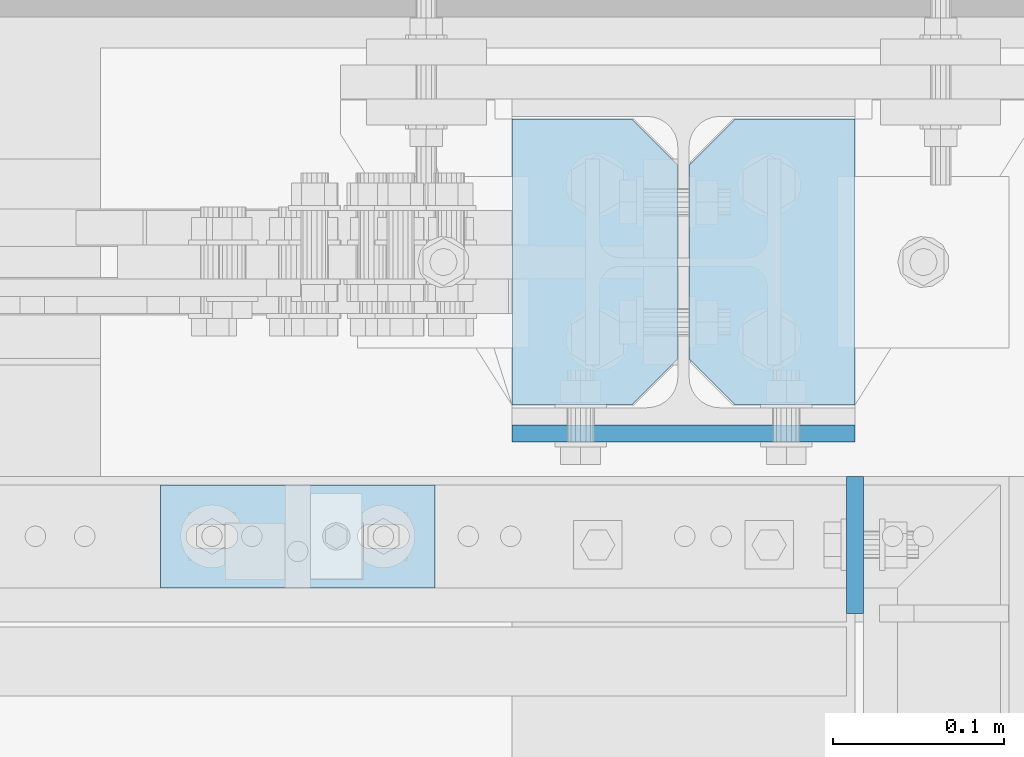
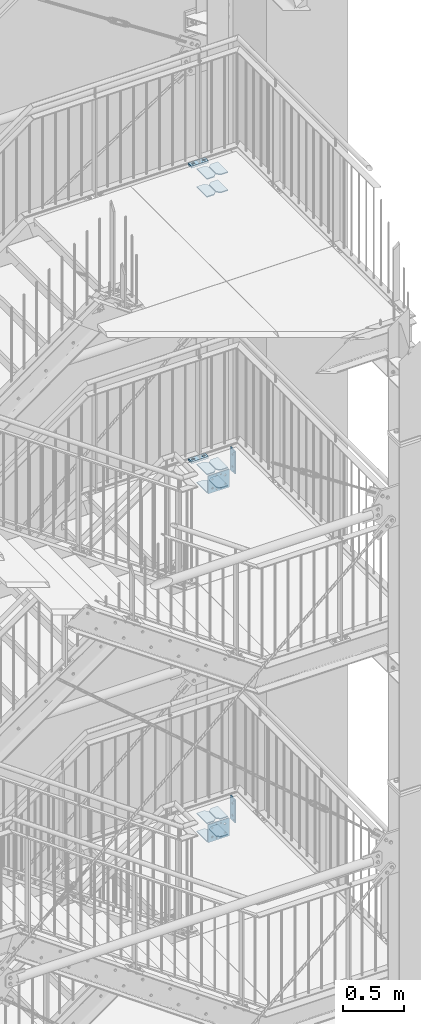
# One storey, part 219 of 831: 18 plates, 52 openings.
"""IFC2X3 building model written with IfcOpenShell, lengths in millimetres."""

from ifc_helpers import new_model, entity, si_unit, converted_unit, point, frame, frame_2d, origin, origin_with_axes, origin_2d_with_axis, place, context, project, spatial, polyline, circle_curve, line_curve, trimmed, segment, composite_curve, circle, outline, extrude, material, layer, layer_set, element, save


model = new_model("IFC2X3")

# Units and contexts
model_context = context("Model", 3, precision=1e-09, world=origin_with_axes())
ifc_project = project(units=[si_unit("LENGTHUNIT", "METRE", prefix="MILLI"), si_unit("AREAUNIT", "SQUARE_METRE"), si_unit("VOLUMEUNIT", "CUBIC_METRE"), converted_unit("PLANEANGLEUNIT", "DEGREE", entity("IfcPlaneAngleMeasure", 0.01745329), si_unit("PLANEANGLEUNIT", "RADIAN"), dimensions=[0, 0, 0, 0, 0, 0, 0])], contexts=[model_context])

# Site, building, storey
site_placement = place(None, origin_with_axes())
site = spatial("IfcSite", under=ifc_project, at=site_placement, Name="Site", CompositionType="ELEMENT")
building_placement = place(site_placement, origin_with_axes())
building = spatial("IfcBuilding", under=site, at=building_placement, Name="Struktur 1", CompositionType="ELEMENT")
storey_placement = place(building_placement, origin_with_axes())
storey = spatial("IfcBuildingStorey", under=building, at=storey_placement, Name="Default Storey", CompositionType="ELEMENT", Elevation=0.0)

# Plate, openings
ifc_material = material(Name="S235JR")
ifc_layer_1 = layer(ifc_material, 10.0)
ifc_layer_set_1 = layer_set([ifc_layer_1], Name="S235JR")
plate_1_placement = place(None, frame((8766.713402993, 7433.236971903, 8386.0), z_axis=(0.0, 0.0, 1.0), x_axis=(1.0, 0.0, 0.0)))
plate_1 = element("IfcPlate", 1, at=plate_1_placement, inside=storey, material=ifc_layer_set_1, Name="Stiffener#1", ObjectType="Stiffener#1", context=model_context, shape_type="SweptSolid", body=[
    extrude(outline(polyline([(0.0, 0.0), (96.75, 0.0), (96.75, 167.0), (0.0, 167.0), (0.0, 0.0)])), origin_with_axes(), (0.0, 0.0, 1.0), 10.0),
])
opening_1_placement = place(plate_1_placement, frame((0.0, 0.0, -0.01), z_axis=(0.0, 0.0, 1.0), x_axis=(1.0, 0.0, 0.0)))
element("IfcOpeningElement", 2, at=opening_1_placement, cuts=plate_1, ObjectType="Opening", context=model_context, shape_type="SweptSolid", body=[
    extrude(outline(polyline([(96.75, 167.0), (69.75, 167.0), (96.75, 140.0), (96.75, 167.0)])), origin(), (0.0, 0.0, 1.0), 10.02),
])
opening_2_placement = place(plate_1_placement, frame((0.0, 0.0, -0.01), z_axis=(0.0, 0.0, 1.0), x_axis=(1.0, 0.0, 0.0)))
element("IfcOpeningElement", 3, at=opening_2_placement, cuts=plate_1, ObjectType="Opening", context=model_context, shape_type="SweptSolid", body=[
    extrude(outline(polyline([(96.75, 0.0), (96.75, 27.0), (69.75, 0.0), (96.75, 0.0)])), origin(), (0.0, 0.0, 1.0), 10.02),
])

plate_2_placement = place(None, frame((8869.963402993, 7433.236971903, 8386.0), z_axis=(0.0, 0.0, 1.0), x_axis=(1.0, 0.0, 0.0)))
plate_2 = element("IfcPlate", 4, at=plate_2_placement, inside=storey, material=ifc_layer_set_1, Name="Stiffener#2", ObjectType="Stiffener#2", context=model_context, shape_type="SweptSolid", body=[
    extrude(outline(polyline([(0.0, 0.0), (96.75, 0.0), (96.75, 167.0), (0.0, 167.0), (0.0, 0.0)])), origin_with_axes(), (0.0, 0.0, 1.0), 10.0),
])
opening_3_placement = place(plate_2_placement, frame((0.0, 0.0, -0.01), z_axis=(0.0, 0.0, 1.0), x_axis=(1.0, 0.0, 0.0)))
element("IfcOpeningElement", 5, at=opening_3_placement, cuts=plate_2, ObjectType="Opening", context=model_context, shape_type="SweptSolid", body=[
    extrude(outline(polyline([(0.0, 167.0), (0.0, 140.0), (27.0, 167.0), (0.0, 167.0)])), origin(), (0.0, 0.0, 1.0), 10.02),
])
opening_4_placement = place(plate_2_placement, frame((0.0, 0.0, -0.01), z_axis=(0.0, 0.0, 1.0), x_axis=(1.0, 0.0, 0.0)))
element("IfcOpeningElement", 6, at=opening_4_placement, cuts=plate_2, ObjectType="Opening", context=model_context, shape_type="SweptSolid", body=[
    extrude(outline(polyline([(0.0, 0.0), (27.0, 0.0), (0.0, 27.0), (0.0, 0.0)])), origin(), (0.0, 0.0, 1.0), 10.02),
])

plate_3_placement = place(None, frame((8863.463402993, 7433.236971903, 8216.0), z_axis=(0.0, 0.0, -1.0), x_axis=(-1.0, 0.0, 0.0)))
plate_3 = element("IfcPlate", 7, at=plate_3_placement, inside=storey, material=ifc_layer_set_1, Name="Stiffener#3", ObjectType="Stiffener#3", context=model_context, shape_type="SweptSolid", body=[
    extrude(outline(polyline([(0.0, 0.0), (96.75, 0.0), (96.75, 167.0), (0.0, 167.0), (0.0, 0.0)])), origin_with_axes(), (0.0, 0.0, 1.0), 10.0),
])
opening_5_placement = place(plate_3_placement, frame((0.0, 0.0, -0.01), z_axis=(0.0, 0.0, 1.0), x_axis=(1.0, 0.0, 0.0)))
element("IfcOpeningElement", 8, at=opening_5_placement, cuts=plate_3, ObjectType="Opening", context=model_context, shape_type="SweptSolid", body=[
    extrude(outline(polyline([(0.0, 167.0), (0.0, 140.0), (27.0, 167.0), (0.0, 167.0)])), origin(), (0.0, 0.0, 1.0), 10.02),
])
opening_6_placement = place(plate_3_placement, frame((0.0, 0.0, -0.01), z_axis=(0.0, 0.0, 1.0), x_axis=(1.0, 0.0, 0.0)))
element("IfcOpeningElement", 9, at=opening_6_placement, cuts=plate_3, ObjectType="Opening", context=model_context, shape_type="SweptSolid", body=[
    extrude(outline(polyline([(0.0, 0.0), (27.0, 0.0), (0.0, 27.0), (0.0, 0.0)])), origin(), (0.0, 0.0, 1.0), 10.02),
])

plate_4_placement = place(None, frame((8966.713402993, 7433.236971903, 8216.0), z_axis=(0.0, 0.0, -1.0), x_axis=(-1.0, 0.0, 0.0)))
plate_4 = element("IfcPlate", 10, at=plate_4_placement, inside=storey, material=ifc_layer_set_1, Name="Stiffener#4", ObjectType="Stiffener#4", context=model_context, shape_type="SweptSolid", body=[
    extrude(outline(polyline([(0.0, 0.0), (96.75, 0.0), (96.75, 167.0), (0.0, 167.0), (0.0, 0.0)])), origin_with_axes(), (0.0, 0.0, 1.0), 10.0),
])
opening_7_placement = place(plate_4_placement, frame((0.0, 0.0, -0.01), z_axis=(0.0, 0.0, 1.0), x_axis=(1.0, 0.0, 0.0)))
element("IfcOpeningElement", 11, at=opening_7_placement, cuts=plate_4, ObjectType="Opening", context=model_context, shape_type="SweptSolid", body=[
    extrude(outline(polyline([(96.75, 167.0), (69.75, 167.0), (96.75, 140.0), (96.75, 167.0)])), origin(), (0.0, 0.0, 1.0), 10.02),
])
opening_8_placement = place(plate_4_placement, frame((0.0, 0.0, -0.01), z_axis=(0.0, 0.0, 1.0), x_axis=(1.0, 0.0, 0.0)))
element("IfcOpeningElement", 12, at=opening_8_placement, cuts=plate_4, ObjectType="Opening", context=model_context, shape_type="SweptSolid", body=[
    extrude(outline(polyline([(96.75, 0.0), (96.75, 27.0), (69.75, 0.0), (96.75, 0.0)])), origin(), (0.0, 0.0, 1.0), 10.02),
])

plate_5_placement = place(None, frame((8866.713402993, 7411.736971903, 5339.8947367), z_axis=(0.0, 1.0, 0.0), x_axis=(0.0, 0.0, -1.0)))
plate_5 = element("IfcPlate", 13, at=plate_5_placement, inside=storey, material=ifc_layer_set_1, Name="Endplate", ObjectType="Endplate", context=model_context, shape_type="SweptSolid", body=[
    extrude(outline(polyline([(-90.0, -100.0), (90.0, -100.0), (90.0, 100.0), (-90.0, 100.0), (-90.0, -100.0)])), origin_with_axes(), (0.0, 0.0, 1.0), 10.0),
])
opening_9_placement = place(plate_5_placement, frame((-67.0, 21.25, 10.5), z_axis=(0.0, 0.0, -1.0), x_axis=(-1.0, 0.0, 0.0)))
element("IfcOpeningElement", 14, at=opening_9_placement, cuts=plate_5, ObjectType="Opening", context=model_context, shape_type="SweptSolid", body=[
    extrude(circle(Radius=6.001, at=origin_2d_with_axis()), origin(), (0.0, 0.0, 1.0), 11.0),
])
opening_10_placement = place(plate_5_placement, frame((67.0, 21.25, 10.5), z_axis=(0.0, 0.0, -1.0), x_axis=(-1.0, 0.0, 0.0)))
element("IfcOpeningElement", 15, at=opening_10_placement, cuts=plate_5, ObjectType="Opening", context=model_context, shape_type="SweptSolid", body=[
    extrude(circle(Radius=6.001, at=origin_2d_with_axis()), origin(), (0.0, 0.0, 1.0), 11.0),
])
opening_11_placement = place(plate_5_placement, frame((67.0, -21.25, 10.5), z_axis=(0.0, 0.0, -1.0), x_axis=(-1.0, 0.0, 0.0)))
element("IfcOpeningElement", 16, at=opening_11_placement, cuts=plate_5, ObjectType="Opening", context=model_context, shape_type="SweptSolid", body=[
    extrude(circle(Radius=6.001, at=origin_2d_with_axis()), origin(), (0.0, 0.0, 1.0), 11.0),
])
opening_12_placement = place(plate_5_placement, frame((-67.0, -21.25, 10.5), z_axis=(0.0, 0.0, -1.0), x_axis=(-1.0, 0.0, 0.0)))
element("IfcOpeningElement", 17, at=opening_12_placement, cuts=plate_5, ObjectType="Opening", context=model_context, shape_type="SweptSolid", body=[
    extrude(circle(Radius=6.001, at=origin_2d_with_axis()), origin(), (0.0, 0.0, 1.0), 11.0),
])
opening_13_placement = place(plate_5_placement, frame((45.0, 60.0, 10.5), z_axis=(0.0, 0.0, -1.0), x_axis=(0.0, 1.0, 0.0)))
element("IfcOpeningElement", 18, at=opening_13_placement, cuts=plate_5, ObjectType="Opening", context=model_context, shape_type="SweptSolid", body=[
    extrude(circle(Radius=9.001, at=origin_2d_with_axis()), origin(), (0.0, 0.0, 1.0), 11.0),
])
opening_14_placement = place(plate_5_placement, frame((-45.0, -60.0, 10.5), z_axis=(0.0, 0.0, -1.0), x_axis=(0.0, -1.0, 0.0)))
element("IfcOpeningElement", 19, at=opening_14_placement, cuts=plate_5, ObjectType="Opening", context=model_context, shape_type="SweptSolid", body=[
    extrude(circle(Radius=9.001, at=origin_2d_with_axis()), origin(), (0.0, 0.0, 1.0), 11.0),
])
opening_15_placement = place(plate_5_placement, frame((-45.0, 60.0, 10.5), z_axis=(0.0, 0.0, -1.0), x_axis=(0.0, 1.0, 0.0)))
element("IfcOpeningElement", 20, at=opening_15_placement, cuts=plate_5, ObjectType="Opening", context=model_context, shape_type="SweptSolid", body=[
    extrude(circle(Radius=9.001, at=origin_2d_with_axis()), origin(), (0.0, 0.0, 1.0), 11.0),
])
opening_16_placement = place(plate_5_placement, frame((45.0, -60.0, 10.5), z_axis=(0.0, 0.0, -1.0), x_axis=(0.0, -1.0, 0.0)))
element("IfcOpeningElement", 21, at=opening_16_placement, cuts=plate_5, ObjectType="Opening", context=model_context, shape_type="SweptSolid", body=[
    extrude(circle(Radius=9.001, at=origin_2d_with_axis()), origin(), (0.0, 0.0, 1.0), 11.0),
])

plate_6_placement = place(None, frame((8766.713402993, 7433.236971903, 5424.8947367), z_axis=(0.0, 0.0, 1.0), x_axis=(1.0, 0.0, 0.0)))
plate_6 = element("IfcPlate", 22, at=plate_6_placement, inside=storey, material=ifc_layer_set_1, Name="Stiffener#1", ObjectType="Stiffener#1", context=model_context, shape_type="SweptSolid", body=[
    extrude(outline(polyline([(0.0, 0.0), (96.75, 0.0), (96.75, 167.0), (0.0, 167.0), (0.0, 0.0)])), origin_with_axes(), (0.0, 0.0, 1.0), 10.0),
])
opening_17_placement = place(plate_6_placement, frame((0.0, 0.0, -0.01), z_axis=(0.0, 0.0, 1.0), x_axis=(1.0, 0.0, 0.0)))
element("IfcOpeningElement", 23, at=opening_17_placement, cuts=plate_6, ObjectType="Opening", context=model_context, shape_type="SweptSolid", body=[
    extrude(outline(polyline([(96.75, 167.0), (69.75, 167.0), (96.75, 140.0), (96.75, 167.0)])), origin(), (0.0, 0.0, 1.0), 10.02),
])
opening_18_placement = place(plate_6_placement, frame((0.0, 0.0, -0.01), z_axis=(0.0, 0.0, 1.0), x_axis=(1.0, 0.0, 0.0)))
element("IfcOpeningElement", 24, at=opening_18_placement, cuts=plate_6, ObjectType="Opening", context=model_context, shape_type="SweptSolid", body=[
    extrude(outline(polyline([(96.75, 0.0), (96.75, 27.0), (69.75, 0.0), (96.75, 0.0)])), origin(), (0.0, 0.0, 1.0), 10.02),
])

plate_7_placement = place(None, frame((8869.963402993, 7433.236971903, 5424.8947367), z_axis=(0.0, 0.0, 1.0), x_axis=(1.0, 0.0, 0.0)))
plate_7 = element("IfcPlate", 25, at=plate_7_placement, inside=storey, material=ifc_layer_set_1, Name="Stiffener#2", ObjectType="Stiffener#2", context=model_context, shape_type="SweptSolid", body=[
    extrude(outline(polyline([(0.0, 0.0), (96.75, 0.0), (96.75, 167.0), (0.0, 167.0), (0.0, 0.0)])), origin_with_axes(), (0.0, 0.0, 1.0), 10.0),
])
opening_19_placement = place(plate_7_placement, frame((0.0, 0.0, -0.01), z_axis=(0.0, 0.0, 1.0), x_axis=(1.0, 0.0, 0.0)))
element("IfcOpeningElement", 26, at=opening_19_placement, cuts=plate_7, ObjectType="Opening", context=model_context, shape_type="SweptSolid", body=[
    extrude(outline(polyline([(0.0, 167.0), (0.0, 140.0), (27.0, 167.0), (0.0, 167.0)])), origin(), (0.0, 0.0, 1.0), 10.02),
])
opening_20_placement = place(plate_7_placement, frame((0.0, 0.0, -0.01), z_axis=(0.0, 0.0, 1.0), x_axis=(1.0, 0.0, 0.0)))
element("IfcOpeningElement", 27, at=opening_20_placement, cuts=plate_7, ObjectType="Opening", context=model_context, shape_type="SweptSolid", body=[
    extrude(outline(polyline([(0.0, 0.0), (27.0, 0.0), (0.0, 27.0), (0.0, 0.0)])), origin(), (0.0, 0.0, 1.0), 10.02),
])

plate_8_placement = place(None, frame((8863.463402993, 7433.236971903, 5254.8947367), z_axis=(0.0, 0.0, -1.0), x_axis=(-1.0, 0.0, 0.0)))
plate_8 = element("IfcPlate", 28, at=plate_8_placement, inside=storey, material=ifc_layer_set_1, Name="Stiffener#3", ObjectType="Stiffener#3", context=model_context, shape_type="SweptSolid", body=[
    extrude(outline(polyline([(0.0, 0.0), (96.75, 0.0), (96.75, 167.0), (0.0, 167.0), (0.0, 0.0)])), origin_with_axes(), (0.0, 0.0, 1.0), 10.0),
])
opening_21_placement = place(plate_8_placement, frame((0.0, 0.0, -0.01), z_axis=(0.0, 0.0, 1.0), x_axis=(1.0, 0.0, 0.0)))
element("IfcOpeningElement", 29, at=opening_21_placement, cuts=plate_8, ObjectType="Opening", context=model_context, shape_type="SweptSolid", body=[
    extrude(outline(polyline([(0.0, 167.0), (0.0, 140.0), (27.0, 167.0), (0.0, 167.0)])), origin(), (0.0, 0.0, 1.0), 10.02),
])
opening_22_placement = place(plate_8_placement, frame((0.0, 0.0, -0.01), z_axis=(0.0, 0.0, 1.0), x_axis=(1.0, 0.0, 0.0)))
element("IfcOpeningElement", 30, at=opening_22_placement, cuts=plate_8, ObjectType="Opening", context=model_context, shape_type="SweptSolid", body=[
    extrude(outline(polyline([(0.0, 0.0), (27.0, 0.0), (0.0, 27.0), (0.0, 0.0)])), origin(), (0.0, 0.0, 1.0), 10.02),
])

plate_9_placement = place(None, frame((8966.713402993, 7433.236971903, 5254.8947367), z_axis=(0.0, 0.0, -1.0), x_axis=(-1.0, 0.0, 0.0)))
plate_9 = element("IfcPlate", 31, at=plate_9_placement, inside=storey, material=ifc_layer_set_1, Name="Stiffener#4", ObjectType="Stiffener#4", context=model_context, shape_type="SweptSolid", body=[
    extrude(outline(polyline([(0.0, 0.0), (96.75, 0.0), (96.75, 167.0), (0.0, 167.0), (0.0, 0.0)])), origin_with_axes(), (0.0, 0.0, 1.0), 10.0),
])
opening_23_placement = place(plate_9_placement, frame((0.0, 0.0, -0.01), z_axis=(0.0, 0.0, 1.0), x_axis=(1.0, 0.0, 0.0)))
element("IfcOpeningElement", 32, at=opening_23_placement, cuts=plate_9, ObjectType="Opening", context=model_context, shape_type="SweptSolid", body=[
    extrude(outline(polyline([(96.75, 167.0), (69.75, 167.0), (96.75, 140.0), (96.75, 167.0)])), origin(), (0.0, 0.0, 1.0), 10.02),
])
opening_24_placement = place(plate_9_placement, frame((0.0, 0.0, -0.01), z_axis=(0.0, 0.0, 1.0), x_axis=(1.0, 0.0, 0.0)))
element("IfcOpeningElement", 33, at=opening_24_placement, cuts=plate_9, ObjectType="Opening", context=model_context, shape_type="SweptSolid", body=[
    extrude(outline(polyline([(96.75, 0.0), (96.75, 27.0), (69.75, 0.0), (96.75, 0.0)])), origin(), (0.0, 0.0, 1.0), 10.02),
])

plate_10_placement = place(None, frame((8866.713402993, 7411.736971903, 1846.0526312), z_axis=(0.0, 1.0, 0.0), x_axis=(0.0, 0.0, -1.0)))
plate_10 = element("IfcPlate", 34, at=plate_10_placement, inside=storey, material=ifc_layer_set_1, Name="Endplate", ObjectType="Endplate", context=model_context, shape_type="SweptSolid", body=[
    extrude(outline(polyline([(-90.0, -100.0), (90.0, -100.0), (90.0, 100.0), (-90.0, 100.0), (-90.0, -100.0)])), origin_with_axes(), (0.0, 0.0, 1.0), 10.0),
])
opening_25_placement = place(plate_10_placement, frame((-67.0, 21.25, 10.5), z_axis=(0.0, 0.0, -1.0), x_axis=(-1.0, 0.0, 0.0)))
element("IfcOpeningElement", 35, at=opening_25_placement, cuts=plate_10, ObjectType="Opening", context=model_context, shape_type="SweptSolid", body=[
    extrude(circle(Radius=6.001, at=origin_2d_with_axis()), origin(), (0.0, 0.0, 1.0), 11.0),
])
opening_26_placement = place(plate_10_placement, frame((67.0, 21.25, 10.5), z_axis=(0.0, 0.0, -1.0), x_axis=(-1.0, 0.0, 0.0)))
element("IfcOpeningElement", 36, at=opening_26_placement, cuts=plate_10, ObjectType="Opening", context=model_context, shape_type="SweptSolid", body=[
    extrude(circle(Radius=6.001, at=origin_2d_with_axis()), origin(), (0.0, 0.0, 1.0), 11.0),
])
opening_27_placement = place(plate_10_placement, frame((67.0, -21.25, 10.5), z_axis=(0.0, 0.0, -1.0), x_axis=(-1.0, 0.0, 0.0)))
element("IfcOpeningElement", 37, at=opening_27_placement, cuts=plate_10, ObjectType="Opening", context=model_context, shape_type="SweptSolid", body=[
    extrude(circle(Radius=6.001, at=origin_2d_with_axis()), origin(), (0.0, 0.0, 1.0), 11.0),
])
opening_28_placement = place(plate_10_placement, frame((-67.0, -21.25, 10.5), z_axis=(0.0, 0.0, -1.0), x_axis=(-1.0, 0.0, 0.0)))
element("IfcOpeningElement", 38, at=opening_28_placement, cuts=plate_10, ObjectType="Opening", context=model_context, shape_type="SweptSolid", body=[
    extrude(circle(Radius=6.001, at=origin_2d_with_axis()), origin(), (0.0, 0.0, 1.0), 11.0),
])
opening_29_placement = place(plate_10_placement, frame((-45.0, 60.0, 10.5), z_axis=(0.0, 0.0, -1.0), x_axis=(0.0, 1.0, 0.0)))
element("IfcOpeningElement", 39, at=opening_29_placement, cuts=plate_10, ObjectType="Opening", context=model_context, shape_type="SweptSolid", body=[
    extrude(circle(Radius=9.001, at=origin_2d_with_axis()), origin(), (0.0, 0.0, 1.0), 11.0),
])
opening_30_placement = place(plate_10_placement, frame((-45.0, -60.0, 10.5), z_axis=(0.0, 0.0, -1.0), x_axis=(0.0, -1.0, 0.0)))
element("IfcOpeningElement", 40, at=opening_30_placement, cuts=plate_10, ObjectType="Opening", context=model_context, shape_type="SweptSolid", body=[
    extrude(circle(Radius=9.001, at=origin_2d_with_axis()), origin(), (0.0, 0.0, 1.0), 11.0),
])
opening_31_placement = place(plate_10_placement, frame((45.0, -60.0, 10.5), z_axis=(0.0, 0.0, -1.0), x_axis=(0.0, -1.0, 0.0)))
element("IfcOpeningElement", 41, at=opening_31_placement, cuts=plate_10, ObjectType="Opening", context=model_context, shape_type="SweptSolid", body=[
    extrude(circle(Radius=9.001, at=origin_2d_with_axis()), origin(), (0.0, 0.0, 1.0), 11.0),
])
opening_32_placement = place(plate_10_placement, frame((45.0, 60.0, 10.5), z_axis=(0.0, 0.0, -1.0), x_axis=(0.0, 1.0, 0.0)))
element("IfcOpeningElement", 42, at=opening_32_placement, cuts=plate_10, ObjectType="Opening", context=model_context, shape_type="SweptSolid", body=[
    extrude(circle(Radius=9.001, at=origin_2d_with_axis()), origin(), (0.0, 0.0, 1.0), 11.0),
])

plate_11_placement = place(None, frame((8766.713402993, 7433.236971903, 1931.0526312), z_axis=(0.0, 0.0, 1.0), x_axis=(1.0, 0.0, 0.0)))
plate_11 = element("IfcPlate", 43, at=plate_11_placement, inside=storey, material=ifc_layer_set_1, Name="Stiffener#1", ObjectType="Stiffener#1", context=model_context, shape_type="SweptSolid", body=[
    extrude(outline(polyline([(0.0, 0.0), (96.75, 0.0), (96.75, 167.0), (0.0, 167.0), (0.0, 0.0)])), origin_with_axes(), (0.0, 0.0, 1.0), 10.0),
])
opening_33_placement = place(plate_11_placement, frame((0.0, 0.0, -0.01), z_axis=(0.0, 0.0, 1.0), x_axis=(1.0, 0.0, 0.0)))
element("IfcOpeningElement", 44, at=opening_33_placement, cuts=plate_11, ObjectType="Opening", context=model_context, shape_type="SweptSolid", body=[
    extrude(outline(polyline([(96.75, 167.0), (69.75, 167.0), (96.75, 140.0), (96.75, 167.0)])), origin(), (0.0, 0.0, 1.0), 10.02),
])
opening_34_placement = place(plate_11_placement, frame((0.0, 0.0, -0.01), z_axis=(0.0, 0.0, 1.0), x_axis=(1.0, 0.0, 0.0)))
element("IfcOpeningElement", 45, at=opening_34_placement, cuts=plate_11, ObjectType="Opening", context=model_context, shape_type="SweptSolid", body=[
    extrude(outline(polyline([(96.75, 0.0), (96.75, 27.0), (69.75, 0.0), (96.75, 0.0)])), origin(), (0.0, 0.0, 1.0), 10.02),
])

plate_12_placement = place(None, frame((8869.963402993, 7433.236971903, 1931.0526312), z_axis=(0.0, 0.0, 1.0), x_axis=(1.0, 0.0, 0.0)))
plate_12 = element("IfcPlate", 46, at=plate_12_placement, inside=storey, material=ifc_layer_set_1, Name="Stiffener#2", ObjectType="Stiffener#2", context=model_context, shape_type="SweptSolid", body=[
    extrude(outline(polyline([(0.0, 0.0), (96.75, 0.0), (96.75, 167.0), (0.0, 167.0), (0.0, 0.0)])), origin_with_axes(), (0.0, 0.0, 1.0), 10.0),
])
opening_35_placement = place(plate_12_placement, frame((0.0, 0.0, -0.01), z_axis=(0.0, 0.0, 1.0), x_axis=(1.0, 0.0, 0.0)))
element("IfcOpeningElement", 47, at=opening_35_placement, cuts=plate_12, ObjectType="Opening", context=model_context, shape_type="SweptSolid", body=[
    extrude(outline(polyline([(0.0, 167.0), (0.0, 140.0), (27.0, 167.0), (0.0, 167.0)])), origin(), (0.0, 0.0, 1.0), 10.02),
])
opening_36_placement = place(plate_12_placement, frame((0.0, 0.0, -0.01), z_axis=(0.0, 0.0, 1.0), x_axis=(1.0, 0.0, 0.0)))
element("IfcOpeningElement", 48, at=opening_36_placement, cuts=plate_12, ObjectType="Opening", context=model_context, shape_type="SweptSolid", body=[
    extrude(outline(polyline([(0.0, 0.0), (27.0, 0.0), (0.0, 27.0), (0.0, 0.0)])), origin(), (0.0, 0.0, 1.0), 10.02),
])

plate_13_placement = place(None, frame((8863.463402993, 7433.236971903, 1761.0526312), z_axis=(0.0, 0.0, -1.0), x_axis=(-1.0, 0.0, 0.0)))
plate_13 = element("IfcPlate", 49, at=plate_13_placement, inside=storey, material=ifc_layer_set_1, Name="Stiffener#3", ObjectType="Stiffener#3", context=model_context, shape_type="SweptSolid", body=[
    extrude(outline(polyline([(0.0, 0.0), (96.75, 0.0), (96.75, 167.0), (0.0, 167.0), (0.0, 0.0)])), origin_with_axes(), (0.0, 0.0, 1.0), 10.0),
])
opening_37_placement = place(plate_13_placement, frame((0.0, 0.0, -0.01), z_axis=(0.0, 0.0, 1.0), x_axis=(1.0, 0.0, 0.0)))
element("IfcOpeningElement", 50, at=opening_37_placement, cuts=plate_13, ObjectType="Opening", context=model_context, shape_type="SweptSolid", body=[
    extrude(outline(polyline([(0.0, 167.0), (0.0, 140.0), (27.0, 167.0), (0.0, 167.0)])), origin(), (0.0, 0.0, 1.0), 10.02),
])
opening_38_placement = place(plate_13_placement, frame((0.0, 0.0, -0.01), z_axis=(0.0, 0.0, 1.0), x_axis=(1.0, 0.0, 0.0)))
element("IfcOpeningElement", 51, at=opening_38_placement, cuts=plate_13, ObjectType="Opening", context=model_context, shape_type="SweptSolid", body=[
    extrude(outline(polyline([(0.0, 0.0), (27.0, 0.0), (0.0, 27.0), (0.0, 0.0)])), origin(), (0.0, 0.0, 1.0), 10.02),
])

plate_14_placement = place(None, frame((8966.713402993, 7433.236971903, 1761.0526312), z_axis=(0.0, 0.0, -1.0), x_axis=(-1.0, 0.0, 0.0)))
plate_14 = element("IfcPlate", 52, at=plate_14_placement, inside=storey, material=ifc_layer_set_1, Name="Stiffener#4", ObjectType="Stiffener#4", context=model_context, shape_type="SweptSolid", body=[
    extrude(outline(polyline([(0.0, 0.0), (96.75, 0.0), (96.75, 167.0), (0.0, 167.0), (0.0, 0.0)])), origin_with_axes(), (0.0, 0.0, 1.0), 10.0),
])
opening_39_placement = place(plate_14_placement, frame((0.0, 0.0, -0.01), z_axis=(0.0, 0.0, 1.0), x_axis=(1.0, 0.0, 0.0)))
element("IfcOpeningElement", 53, at=opening_39_placement, cuts=plate_14, ObjectType="Opening", context=model_context, shape_type="SweptSolid", body=[
    extrude(outline(polyline([(96.75, 167.0), (69.75, 167.0), (96.75, 140.0), (96.75, 167.0)])), origin(), (0.0, 0.0, 1.0), 10.02),
])
opening_40_placement = place(plate_14_placement, frame((0.0, 0.0, -0.01), z_axis=(0.0, 0.0, 1.0), x_axis=(1.0, 0.0, 0.0)))
element("IfcOpeningElement", 54, at=opening_40_placement, cuts=plate_14, ObjectType="Opening", context=model_context, shape_type="SweptSolid", body=[
    extrude(outline(polyline([(96.75, 0.0), (96.75, 27.0), (69.75, 0.0), (96.75, 0.0)])), origin(), (0.0, 0.0, 1.0), 10.02),
])

ifc_layer_2 = layer(ifc_material, 20.0)
ifc_layer_set_2 = layer_set([ifc_layer_2], Name="S235JR")
plate_15_placement = place(None, frame((8721.713974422, 7386.736971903, 5674.8947367), z_axis=(0.0, 0.0, 1.0), x_axis=(-1.0, 0.0, 0.0)))
plate_15 = element("IfcPlate", 55, at=plate_15_placement, inside=storey, material=ifc_layer_set_2, Name="Plate#504", ObjectType="Plate#504", context=model_context, shape_type="SweptSolid", body=[
    extrude(outline(polyline([(0.0, 0.0), (160.0, 0.0), (160.0, 60.0), (0.0, 60.0), (0.0, 0.0)])), origin_with_axes(), (0.0, 0.0, 1.0), 20.0),
])
opening_41_placement = place(plate_15_placement, frame((38.0, 37.001, 20.5), z_axis=(0.0, 0.0, 1.0), x_axis=(-1.0, 0.0, 0.0)))
element("IfcOpeningElement", 56, at=opening_41_placement, cuts=plate_15, ObjectType="Opening", context=model_context, shape_type="SweptSolid", body=[
    extrude(outline(composite_curve([segment(trimmed(line_curve((0.0, 0.0), (1.0, 0.0), 16.0), [point((0.0, 0.0))], [point((16.0, 0.0))], True, "CARTESIAN"), True, "CONTINUOUS"), segment(trimmed(circle_curve(frame_2d((16.0, 7.001), x_axis=(1.0, 0.0)), 7.001), [point((16.0, 0.0))], [point((16.0, 14.002))], True, "CARTESIAN"), True, "CONTINUOUS"), segment(trimmed(line_curve((16.0, 14.002), (-1.0, 0.0), 16.0), [point((16.0, 14.002))], [point((0.0, 14.002))], True, "CARTESIAN"), True, "CONTINUOUS"), segment(trimmed(circle_curve(frame_2d((0.0, 7.001), x_axis=(1.0, 0.0)), 7.001), [point((0.0, 14.002))], [point((0.0, 0.0))], True, "CARTESIAN"), True, "CONTINUOUS")], self_intersect=False)), origin(), (0.0, 0.0, -1.0), 21.0),
])
opening_42_placement = place(plate_15_placement, frame((138.0, 37.001, 20.5), z_axis=(0.0, 0.0, 1.0), x_axis=(-1.0, 0.0, 0.0)))
element("IfcOpeningElement", 57, at=opening_42_placement, cuts=plate_15, ObjectType="Opening", context=model_context, shape_type="SweptSolid", body=[
    extrude(outline(composite_curve([segment(trimmed(line_curve((0.0, 0.0), (1.0, 0.0), 16.0), [point((0.0, 0.0))], [point((16.0, 0.0))], True, "CARTESIAN"), True, "CONTINUOUS"), segment(trimmed(circle_curve(frame_2d((16.0, 7.001), x_axis=(1.0, 0.0)), 7.001), [point((16.0, 0.0))], [point((16.0, 14.002))], True, "CARTESIAN"), True, "CONTINUOUS"), segment(trimmed(line_curve((16.0, 14.002), (-1.0, 0.0), 16.0), [point((16.0, 14.002))], [point((0.0, 14.002))], True, "CARTESIAN"), True, "CONTINUOUS"), segment(trimmed(circle_curve(frame_2d((0.0, 7.001), x_axis=(1.0, 0.0)), 7.001), [point((0.0, 14.002))], [point((0.0, 0.0))], True, "CARTESIAN"), True, "CONTINUOUS")], self_intersect=False)), origin(), (0.0, 0.0, -1.0), 21.0),
])

plate_16_placement = place(None, frame((8721.713974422, 7386.736971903, 8636.0), z_axis=(0.0, 0.0, 1.0), x_axis=(-1.0, 0.0, 0.0)))
plate_16 = element("IfcPlate", 58, at=plate_16_placement, inside=storey, material=ifc_layer_set_2, Name="Plate#504", ObjectType="Plate#504", context=model_context, shape_type="SweptSolid", body=[
    extrude(outline(polyline([(0.0, 0.0), (160.0, 0.0), (160.0, 60.0), (0.0, 60.0), (0.0, 0.0)])), origin_with_axes(), (0.0, 0.0, 1.0), 20.0),
])
opening_43_placement = place(plate_16_placement, frame((38.0, 37.001, 20.5), z_axis=(0.0, 0.0, 1.0), x_axis=(-1.0, 0.0, 0.0)))
element("IfcOpeningElement", 59, at=opening_43_placement, cuts=plate_16, ObjectType="Opening", context=model_context, shape_type="SweptSolid", body=[
    extrude(outline(composite_curve([segment(trimmed(line_curve((0.0, 0.0), (1.0, 0.0), 16.0), [point((0.0, 0.0))], [point((16.0, 0.0))], True, "CARTESIAN"), True, "CONTINUOUS"), segment(trimmed(circle_curve(frame_2d((16.0, 7.001), x_axis=(1.0, 0.0)), 7.001), [point((16.0, 0.0))], [point((16.0, 14.002))], True, "CARTESIAN"), True, "CONTINUOUS"), segment(trimmed(line_curve((16.0, 14.002), (-1.0, 0.0), 16.0), [point((16.0, 14.002))], [point((0.0, 14.002))], True, "CARTESIAN"), True, "CONTINUOUS"), segment(trimmed(circle_curve(frame_2d((0.0, 7.001), x_axis=(1.0, 0.0)), 7.001), [point((0.0, 14.002))], [point((0.0, 0.0))], True, "CARTESIAN"), True, "CONTINUOUS")], self_intersect=False)), origin(), (0.0, 0.0, -1.0), 21.0),
])
opening_44_placement = place(plate_16_placement, frame((138.0, 37.001, 20.5), z_axis=(0.0, 0.0, 1.0), x_axis=(-1.0, 0.0, 0.0)))
element("IfcOpeningElement", 60, at=opening_44_placement, cuts=plate_16, ObjectType="Opening", context=model_context, shape_type="SweptSolid", body=[
    extrude(outline(composite_curve([segment(trimmed(line_curve((0.0, 0.0), (1.0, 0.0), 16.0), [point((0.0, 0.0))], [point((16.0, 0.0))], True, "CARTESIAN"), True, "CONTINUOUS"), segment(trimmed(circle_curve(frame_2d((16.0, 7.001), x_axis=(1.0, 0.0)), 7.001), [point((16.0, 0.0))], [point((16.0, 14.002))], True, "CARTESIAN"), True, "CONTINUOUS"), segment(trimmed(line_curve((16.0, 14.002), (-1.0, 0.0), 16.0), [point((16.0, 14.002))], [point((0.0, 14.002))], True, "CARTESIAN"), True, "CONTINUOUS"), segment(trimmed(circle_curve(frame_2d((0.0, 7.001), x_axis=(1.0, 0.0)), 7.001), [point((0.0, 14.002))], [point((0.0, 0.0))], True, "CARTESIAN"), True, "CONTINUOUS")], self_intersect=False)), origin(), (0.0, 0.0, -1.0), 21.0),
])

plate_17_placement = place(None, frame((8971.713402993, 7311.736971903, 2176.0526312), z_axis=(-1.0, 0.0, 0.0), x_axis=(0.0, 1.0, 0.0)))
plate_17 = element("IfcPlate", 61, at=plate_17_placement, inside=storey, material=ifc_layer_set_1, Name="Endplate", ObjectType="Endplate", context=model_context, shape_type="SweptSolid", body=[
    extrude(outline(polyline([(0.0, 0.0), (80.0, 0.0), (80.0, 230.0), (0.0, 230.0), (0.0, 0.0)])), origin_with_axes(), (0.0, 0.0, 1.0), 10.0),
])
opening_45_placement = place(plate_17_placement, frame((17.5, 209.0, -0.5), z_axis=(0.0, 0.0, 1.0), x_axis=(0.0, -1.0, 0.0)))
element("IfcOpeningElement", 62, at=opening_45_placement, cuts=plate_17, ObjectType="Opening", context=model_context, shape_type="SweptSolid", body=[
    extrude(circle(Radius=6.001, at=origin_2d_with_axis()), origin(), (0.0, 0.0, 1.0), 11.0),
])
opening_46_placement = place(plate_17_placement, frame((17.5, 21.0, -0.5), z_axis=(0.0, 0.0, 1.0), x_axis=(0.0, -1.0, 0.0)))
element("IfcOpeningElement", 63, at=opening_46_placement, cuts=plate_17, ObjectType="Opening", context=model_context, shape_type="SweptSolid", body=[
    extrude(circle(Radius=6.001, at=origin_2d_with_axis()), origin(), (0.0, 0.0, 1.0), 11.0),
])
opening_47_placement = place(plate_17_placement, frame((40.0, 115.0, -0.5), z_axis=(0.0, 0.0, 1.0), x_axis=(0.0, -1.0, 0.0)))
element("IfcOpeningElement", 64, at=opening_47_placement, cuts=plate_17, ObjectType="Opening", context=model_context, shape_type="SweptSolid", body=[
    extrude(circle(Radius=9.001, at=frame_2d((60.0, 0.0), x_axis=(1.0, 0.0))), origin(), (0.0, 0.0, 1.0), 11.0),
])
opening_48_placement = place(plate_17_placement, frame((40.0, 115.0, -0.5), z_axis=(0.0, 0.0, 1.0), x_axis=(0.0, -1.0, 0.0)))
element("IfcOpeningElement", 65, at=opening_48_placement, cuts=plate_17, ObjectType="Opening", context=model_context, shape_type="SweptSolid", body=[
    extrude(circle(Radius=9.001, at=frame_2d((-60.0, 0.0), x_axis=(1.0, 0.0))), origin(), (0.0, 0.0, 1.0), 11.0),
])

plate_18_placement = place(None, frame((8971.713402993, 7311.736971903, 5669.8947367), z_axis=(-1.0, 0.0, 0.0), x_axis=(0.0, 1.0, 0.0)))
plate_18 = element("IfcPlate", 66, at=plate_18_placement, inside=storey, material=ifc_layer_set_1, Name="Endplate", ObjectType="Endplate", context=model_context, shape_type="SweptSolid", body=[
    extrude(outline(polyline([(0.0, 0.0), (80.0, 0.0), (80.0, 230.0), (0.0, 230.0), (0.0, 0.0)])), origin_with_axes(), (0.0, 0.0, 1.0), 10.0),
])
opening_49_placement = place(plate_18_placement, frame((17.5, 209.0, -0.5), z_axis=(0.0, 0.0, 1.0), x_axis=(0.0, -1.0, 0.0)))
element("IfcOpeningElement", 67, at=opening_49_placement, cuts=plate_18, ObjectType="Opening", context=model_context, shape_type="SweptSolid", body=[
    extrude(circle(Radius=6.001, at=origin_2d_with_axis()), origin(), (0.0, 0.0, 1.0), 11.0),
])
opening_50_placement = place(plate_18_placement, frame((17.5, 21.0, -0.5), z_axis=(0.0, 0.0, 1.0), x_axis=(0.0, -1.0, 0.0)))
element("IfcOpeningElement", 68, at=opening_50_placement, cuts=plate_18, ObjectType="Opening", context=model_context, shape_type="SweptSolid", body=[
    extrude(circle(Radius=6.001, at=origin_2d_with_axis()), origin(), (0.0, 0.0, 1.0), 11.0),
])
opening_51_placement = place(plate_18_placement, frame((40.0, 115.0, -0.5), z_axis=(0.0, 0.0, 1.0), x_axis=(0.0, -1.0, 0.0)))
element("IfcOpeningElement", 69, at=opening_51_placement, cuts=plate_18, ObjectType="Opening", context=model_context, shape_type="SweptSolid", body=[
    extrude(circle(Radius=9.001, at=frame_2d((60.0, 0.0), x_axis=(1.0, 0.0))), origin(), (0.0, 0.0, 1.0), 11.0),
])
opening_52_placement = place(plate_18_placement, frame((40.0, 115.0, -0.5), z_axis=(0.0, 0.0, 1.0), x_axis=(0.0, -1.0, 0.0)))
element("IfcOpeningElement", 70, at=opening_52_placement, cuts=plate_18, ObjectType="Opening", context=model_context, shape_type="SweptSolid", body=[
    extrude(circle(Radius=9.001, at=frame_2d((-60.0, 0.0), x_axis=(1.0, 0.0))), origin(), (0.0, 0.0, 1.0), 11.0),
])

save(model, "model.ifc")
